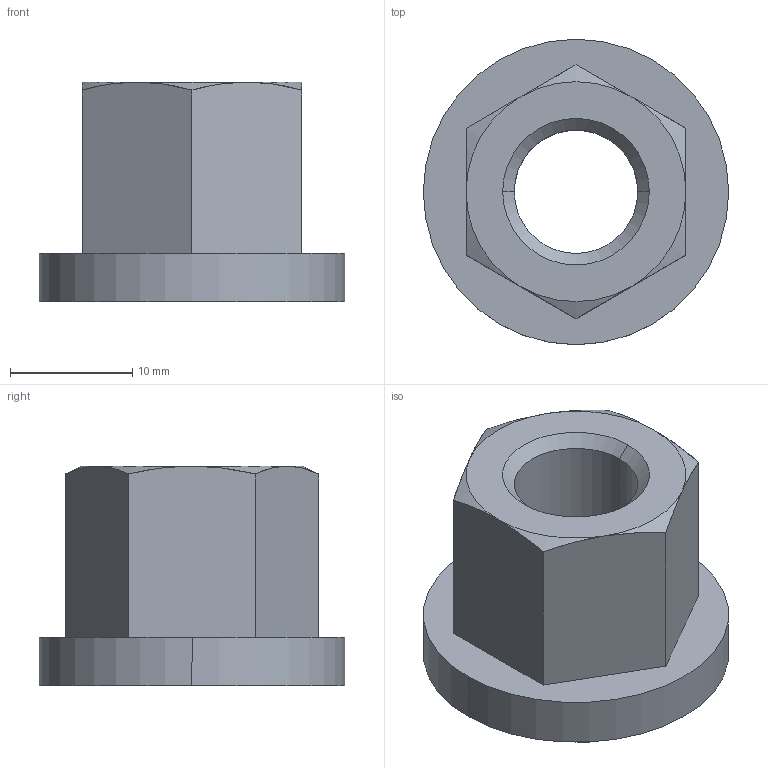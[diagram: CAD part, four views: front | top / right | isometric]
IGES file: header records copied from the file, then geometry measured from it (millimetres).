
Start section: 3D InterOp IGES (v. 2018 1.0.2), Spatial Corp. Copyright (c) 1999-2017.
Global section: file name: HWS_9014_12.igs; native system: Spatial Corp.; preprocessor: 3D InterOp GENERIC/IGES 3.0; author: Noname; organization: Noname; date: 20191010.134750; units: metre
Bounding box: 25 x 25 x 18 mm (x, y, z)
Surface area: 2536 mm2 (no closed solid volume)
Topology: 0 solids, 0 shells, 23 faces, 100 edges, 100 vertices
Faces by surface type: revolution 14, extrusion 9
